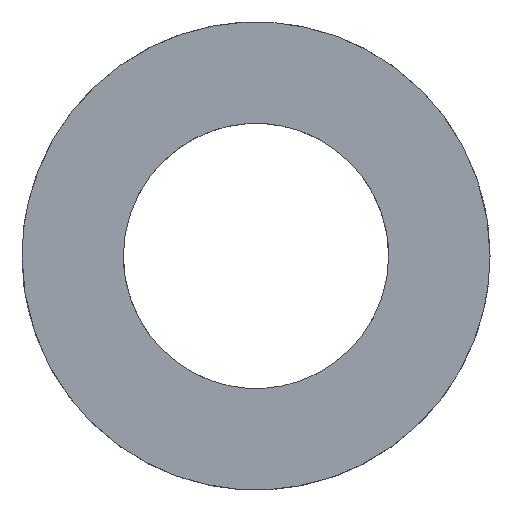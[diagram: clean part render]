
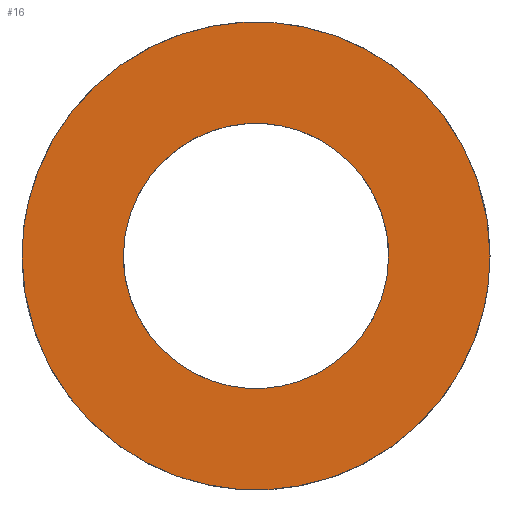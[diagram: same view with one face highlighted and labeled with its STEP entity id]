
A CAD part, top view. The second image highlights one B-rep face of the part: STEP entity #16.
In plain terms, the highlighted free-form (B-spline) face has degree [1, 1] with [2, 2] control points.
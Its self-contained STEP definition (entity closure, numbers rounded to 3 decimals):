
#16=ADVANCED_FACE('',(#26,#23),#199,.T.);
#23=FACE_BOUND('',#36,.T.);
#26=FACE_OUTER_BOUND('',#35,.T.);
#35=EDGE_LOOP('',(#47,#48));
#36=EDGE_LOOP('',(#49,#50));
#47=ORIENTED_EDGE('',*,*,#153,.T.);
#48=ORIENTED_EDGE('',*,*,#154,.T.);
#49=ORIENTED_EDGE('',*,*,#155,.T.);
#50=ORIENTED_EDGE('',*,*,#156,.T.);
#68=B_SPLINE_CURVE_WITH_KNOTS('',1,(#466,#467),.UNSPECIFIED.,.F.,.F.,(2,
2),(94.248,120.951),.UNSPECIFIED.);
#72=B_SPLINE_CURVE_WITH_KNOTS('',1,(#478,#479),.UNSPECIFIED.,.F.,.F.,(2,
2),(0.,47.124),.UNSPECIFIED.);
#77=B_SPLINE_CURVE_WITH_KNOTS('',1,(#490,#491),.UNSPECIFIED.,.F.,.F.,(2,
2),(120.951,147.655),.UNSPECIFIED.);
#81=B_SPLINE_CURVE_WITH_KNOTS('',1,(#498,#499),.UNSPECIFIED.,.F.,.F.,(2,
2),(47.124,94.248),.UNSPECIFIED.);
#89=PCURVE('',#199,#115);
#90=PCURVE('',#199,#116);
#91=PCURVE('',#199,#117);
#92=PCURVE('',#199,#118);
#94=PCURVE('',#193,#120);
#98=PCURVE('',#194,#124);
#103=PCURVE('',#195,#129);
#107=PCURVE('',#196,#133);
#115=DEFINITIONAL_REPRESENTATION('',(#173),#503);
#116=DEFINITIONAL_REPRESENTATION('',(#175),#503);
#117=DEFINITIONAL_REPRESENTATION('',(#177),#503);
#118=DEFINITIONAL_REPRESENTATION('',(#179),#503);
#120=DEFINITIONAL_REPRESENTATION('',(#68),#503);
#124=DEFINITIONAL_REPRESENTATION('',(#72),#503);
#129=DEFINITIONAL_REPRESENTATION('',(#77),#503);
#133=DEFINITIONAL_REPRESENTATION('',(#81),#503);
#140=SURFACE_CURVE('',#172,(#89,#98),.PCURVE_S1.);
#141=SURFACE_CURVE('',#174,(#90,#107),.PCURVE_S1.);
#142=SURFACE_CURVE('',#176,(#91,#94),.PCURVE_S1.);
#143=SURFACE_CURVE('',#178,(#92,#103),.PCURVE_S1.);
#153=EDGE_CURVE('',#187,#192,#140,.T.);
#154=EDGE_CURVE('',#192,#187,#141,.T.);
#155=EDGE_CURVE('',#188,#190,#142,.T.);
#156=EDGE_CURVE('',#190,#188,#143,.T.);
#172=(
BOUNDED_CURVE()
B_SPLINE_CURVE(2,(#422,#423,#424,#425,#426),.UNSPECIFIED.,.F.,.F.)
B_SPLINE_CURVE_WITH_KNOTS((3,2,3),(0.,23.562,47.124),
 .UNSPECIFIED.)
CURVE()
GEOMETRIC_REPRESENTATION_ITEM()
RATIONAL_B_SPLINE_CURVE((1.,0.707,1.,0.707,1.))
REPRESENTATION_ITEM('')
);
#173=(
BOUNDED_CURVE()
B_SPLINE_CURVE(2,(#427,#428,#429,#430,#431),.UNSPECIFIED.,.F.,.F.)
B_SPLINE_CURVE_WITH_KNOTS((3,2,3),(0.,23.562,47.124),
 .UNSPECIFIED.)
CURVE()
GEOMETRIC_REPRESENTATION_ITEM()
RATIONAL_B_SPLINE_CURVE((1.,0.707,1.,0.707,1.))
REPRESENTATION_ITEM('')
);
#174=(
BOUNDED_CURVE()
B_SPLINE_CURVE(2,(#432,#433,#434,#435,#436),.UNSPECIFIED.,.F.,.F.)
B_SPLINE_CURVE_WITH_KNOTS((3,2,3),(47.124,70.686,94.248),
 .UNSPECIFIED.)
CURVE()
GEOMETRIC_REPRESENTATION_ITEM()
RATIONAL_B_SPLINE_CURVE((1.,0.707,1.,0.707,1.))
REPRESENTATION_ITEM('')
);
#175=(
BOUNDED_CURVE()
B_SPLINE_CURVE(2,(#437,#438,#439,#440,#441),.UNSPECIFIED.,.F.,.F.)
B_SPLINE_CURVE_WITH_KNOTS((3,2,3),(47.124,70.686,94.248),
 .UNSPECIFIED.)
CURVE()
GEOMETRIC_REPRESENTATION_ITEM()
RATIONAL_B_SPLINE_CURVE((1.,0.707,1.,0.707,1.))
REPRESENTATION_ITEM('')
);
#176=(
BOUNDED_CURVE()
B_SPLINE_CURVE(2,(#442,#443,#444,#445,#446),.UNSPECIFIED.,.F.,.F.)
B_SPLINE_CURVE_WITH_KNOTS((3,2,3),(94.248,107.6,120.951),
 .UNSPECIFIED.)
CURVE()
GEOMETRIC_REPRESENTATION_ITEM()
RATIONAL_B_SPLINE_CURVE((1.,0.707,1.,0.707,1.))
REPRESENTATION_ITEM('')
);
#177=(
BOUNDED_CURVE()
B_SPLINE_CURVE(2,(#447,#448,#449,#450,#451),.UNSPECIFIED.,.F.,.F.)
B_SPLINE_CURVE_WITH_KNOTS((3,2,3),(94.248,107.6,120.951),
 .UNSPECIFIED.)
CURVE()
GEOMETRIC_REPRESENTATION_ITEM()
RATIONAL_B_SPLINE_CURVE((1.,0.707,1.,0.707,1.))
REPRESENTATION_ITEM('')
);
#178=(
BOUNDED_CURVE()
B_SPLINE_CURVE(2,(#452,#453,#454,#455,#456),.UNSPECIFIED.,.F.,.F.)
B_SPLINE_CURVE_WITH_KNOTS((3,2,3),(120.951,134.303,147.655),
 .UNSPECIFIED.)
CURVE()
GEOMETRIC_REPRESENTATION_ITEM()
RATIONAL_B_SPLINE_CURVE((1.,0.707,1.,0.707,1.))
REPRESENTATION_ITEM('')
);
#179=(
BOUNDED_CURVE()
B_SPLINE_CURVE(2,(#457,#458,#459,#460,#461),.UNSPECIFIED.,.F.,.F.)
B_SPLINE_CURVE_WITH_KNOTS((3,2,3),(120.951,134.303,147.655),
 .UNSPECIFIED.)
CURVE()
GEOMETRIC_REPRESENTATION_ITEM()
RATIONAL_B_SPLINE_CURVE((1.,0.707,1.,0.707,1.))
REPRESENTATION_ITEM('')
);
#187=VERTEX_POINT('',#349);
#188=VERTEX_POINT('',#350);
#190=VERTEX_POINT('',#352);
#192=VERTEX_POINT('',#354);
#193=(
BOUNDED_SURFACE()
B_SPLINE_SURFACE(2,1,((#306,#307),(#308,#309),(#310,#311),(#312,#313),(#314,
#315)),.UNSPECIFIED.,.F.,.F.,.F.)
B_SPLINE_SURFACE_WITH_KNOTS((3,2,3),(2,2),(94.248,107.6,
120.951),(0.,3.),.UNSPECIFIED.)
GEOMETRIC_REPRESENTATION_ITEM()
RATIONAL_B_SPLINE_SURFACE(((1.,1.),(0.707,0.707),
(1.,1.),(0.707,0.707),(1.,1.)))
REPRESENTATION_ITEM('')
SURFACE()
);
#194=(
BOUNDED_SURFACE()
B_SPLINE_SURFACE(2,1,((#316,#317),(#318,#319),(#320,#321),(#322,#323),(#324,
#325)),.UNSPECIFIED.,.F.,.F.,.F.)
B_SPLINE_SURFACE_WITH_KNOTS((3,2,3),(2,2),(0.,23.562,47.124),
(0.,3.),.UNSPECIFIED.)
GEOMETRIC_REPRESENTATION_ITEM()
RATIONAL_B_SPLINE_SURFACE(((1.,1.),(0.707,0.707),
(1.,1.),(0.707,0.707),(1.,1.)))
REPRESENTATION_ITEM('')
SURFACE()
);
#195=(
BOUNDED_SURFACE()
B_SPLINE_SURFACE(2,1,((#326,#327),(#328,#329),(#330,#331),(#332,#333),(#334,
#335)),.UNSPECIFIED.,.F.,.F.,.F.)
B_SPLINE_SURFACE_WITH_KNOTS((3,2,3),(2,2),(120.951,134.303,
147.655),(0.,3.),.UNSPECIFIED.)
GEOMETRIC_REPRESENTATION_ITEM()
RATIONAL_B_SPLINE_SURFACE(((1.,1.),(0.707,0.707),
(1.,1.),(0.707,0.707),(1.,1.)))
REPRESENTATION_ITEM('')
SURFACE()
);
#196=(
BOUNDED_SURFACE()
B_SPLINE_SURFACE(2,1,((#336,#337),(#338,#339),(#340,#341),(#342,#343),(#344,
#345)),.UNSPECIFIED.,.F.,.F.,.F.)
B_SPLINE_SURFACE_WITH_KNOTS((3,2,3),(2,2),(47.124,70.686,
94.248),(0.,3.),.UNSPECIFIED.)
GEOMETRIC_REPRESENTATION_ITEM()
RATIONAL_B_SPLINE_SURFACE(((1.,1.),(0.707,0.707),
(1.,1.),(0.707,0.707),(1.,1.)))
REPRESENTATION_ITEM('')
SURFACE()
);
#199=B_SPLINE_SURFACE_WITH_KNOTS('',1,1,((#302,#303),(#304,#305)),
 .UNSPECIFIED.,.F.,.F.,.F.,(2,2),(2,2),(-33.75,3.75),(-18.75,18.75),
 .UNSPECIFIED.);
#302=CARTESIAN_POINT('',(-18.75,-18.75,-20.));
#303=CARTESIAN_POINT('',(-18.75,18.75,-20.));
#304=CARTESIAN_POINT('',(18.75,-18.75,-20.));
#305=CARTESIAN_POINT('',(18.75,18.75,-20.));
#306=CARTESIAN_POINT('',(8.5,0.,-23.));
#307=CARTESIAN_POINT('',(8.5,0.,-20.));
#308=CARTESIAN_POINT('',(8.5,-8.5,-23.));
#309=CARTESIAN_POINT('',(8.5,-8.5,-20.));
#310=CARTESIAN_POINT('',(0.,-8.5,-23.));
#311=CARTESIAN_POINT('',(0.,-8.5,-20.));
#312=CARTESIAN_POINT('',(-8.5,-8.5,-23.));
#313=CARTESIAN_POINT('',(-8.5,-8.5,-20.));
#314=CARTESIAN_POINT('',(-8.5,0.,-23.));
#315=CARTESIAN_POINT('',(-8.5,0.,-20.));
#316=CARTESIAN_POINT('',(15.,0.,-23.));
#317=CARTESIAN_POINT('',(15.,0.,-20.));
#318=CARTESIAN_POINT('',(15.,15.,-23.));
#319=CARTESIAN_POINT('',(15.,15.,-20.));
#320=CARTESIAN_POINT('',(0.,15.,-23.));
#321=CARTESIAN_POINT('',(0.,15.,-20.));
#322=CARTESIAN_POINT('',(-15.,15.,-23.));
#323=CARTESIAN_POINT('',(-15.,15.,-20.));
#324=CARTESIAN_POINT('',(-15.,0.,-23.));
#325=CARTESIAN_POINT('',(-15.,0.,-20.));
#326=CARTESIAN_POINT('',(-8.5,0.,-23.));
#327=CARTESIAN_POINT('',(-8.5,0.,-20.));
#328=CARTESIAN_POINT('',(-8.5,8.5,-23.));
#329=CARTESIAN_POINT('',(-8.5,8.5,-20.));
#330=CARTESIAN_POINT('',(0.,8.5,-23.));
#331=CARTESIAN_POINT('',(0.,8.5,-20.));
#332=CARTESIAN_POINT('',(8.5,8.5,-23.));
#333=CARTESIAN_POINT('',(8.5,8.5,-20.));
#334=CARTESIAN_POINT('',(8.5,0.,-23.));
#335=CARTESIAN_POINT('',(8.5,0.,-20.));
#336=CARTESIAN_POINT('',(-15.,0.,-23.));
#337=CARTESIAN_POINT('',(-15.,0.,-20.));
#338=CARTESIAN_POINT('',(-15.,-15.,-23.));
#339=CARTESIAN_POINT('',(-15.,-15.,-20.));
#340=CARTESIAN_POINT('',(0.,-15.,-23.));
#341=CARTESIAN_POINT('',(0.,-15.,-20.));
#342=CARTESIAN_POINT('',(15.,-15.,-23.));
#343=CARTESIAN_POINT('',(15.,-15.,-20.));
#344=CARTESIAN_POINT('',(15.,0.,-23.));
#345=CARTESIAN_POINT('',(15.,0.,-20.));
#349=CARTESIAN_POINT('',(15.,0.,-20.));
#350=CARTESIAN_POINT('',(8.5,0.,-20.));
#352=CARTESIAN_POINT('',(-8.5,0.,-20.));
#354=CARTESIAN_POINT('',(-15.,0.,-20.));
#422=CARTESIAN_POINT('',(15.,0.,-20.));
#423=CARTESIAN_POINT('',(15.,15.,-20.));
#424=CARTESIAN_POINT('',(0.,15.,-20.));
#425=CARTESIAN_POINT('',(-15.,15.,-20.));
#426=CARTESIAN_POINT('',(-15.,0.,-20.));
#427=CARTESIAN_POINT('',(0.,0.));
#428=CARTESIAN_POINT('',(0.,15.));
#429=CARTESIAN_POINT('',(-15.,15.));
#430=CARTESIAN_POINT('',(-30.,15.));
#431=CARTESIAN_POINT('',(-30.,0.));
#432=CARTESIAN_POINT('',(-15.,0.,-20.));
#433=CARTESIAN_POINT('',(-15.,-15.,-20.));
#434=CARTESIAN_POINT('',(0.,-15.,-20.));
#435=CARTESIAN_POINT('',(15.,-15.,-20.));
#436=CARTESIAN_POINT('',(15.,0.,-20.));
#437=CARTESIAN_POINT('',(-30.,0.));
#438=CARTESIAN_POINT('',(-30.,-15.));
#439=CARTESIAN_POINT('',(-15.,-15.));
#440=CARTESIAN_POINT('',(0.,-15.));
#441=CARTESIAN_POINT('',(0.,0.));
#442=CARTESIAN_POINT('',(8.5,0.,-20.));
#443=CARTESIAN_POINT('',(8.5,-8.5,-20.));
#444=CARTESIAN_POINT('',(0.,-8.5,-20.));
#445=CARTESIAN_POINT('',(-8.5,-8.5,-20.));
#446=CARTESIAN_POINT('',(-8.5,0.,-20.));
#447=CARTESIAN_POINT('',(-6.5,0.));
#448=CARTESIAN_POINT('',(-6.5,-8.5));
#449=CARTESIAN_POINT('',(-15.,-8.5));
#450=CARTESIAN_POINT('',(-23.5,-8.5));
#451=CARTESIAN_POINT('',(-23.5,0.));
#452=CARTESIAN_POINT('',(-8.5,0.,-20.));
#453=CARTESIAN_POINT('',(-8.5,8.5,-20.));
#454=CARTESIAN_POINT('',(0.,8.5,-20.));
#455=CARTESIAN_POINT('',(8.5,8.5,-20.));
#456=CARTESIAN_POINT('',(8.5,0.,-20.));
#457=CARTESIAN_POINT('',(-23.5,0.));
#458=CARTESIAN_POINT('',(-23.5,8.5));
#459=CARTESIAN_POINT('',(-15.,8.5));
#460=CARTESIAN_POINT('',(-6.5,8.5));
#461=CARTESIAN_POINT('',(-6.5,0.));
#466=CARTESIAN_POINT('',(94.248,3.));
#467=CARTESIAN_POINT('',(120.951,3.));
#478=CARTESIAN_POINT('',(0.,3.));
#479=CARTESIAN_POINT('',(47.124,3.));
#490=CARTESIAN_POINT('',(120.951,3.));
#491=CARTESIAN_POINT('',(147.655,3.));
#498=CARTESIAN_POINT('',(47.124,3.));
#499=CARTESIAN_POINT('',(94.248,3.));
#503=(
GEOMETRIC_REPRESENTATION_CONTEXT(2)
PARAMETRIC_REPRESENTATION_CONTEXT()
REPRESENTATION_CONTEXT('pspace','')
);
